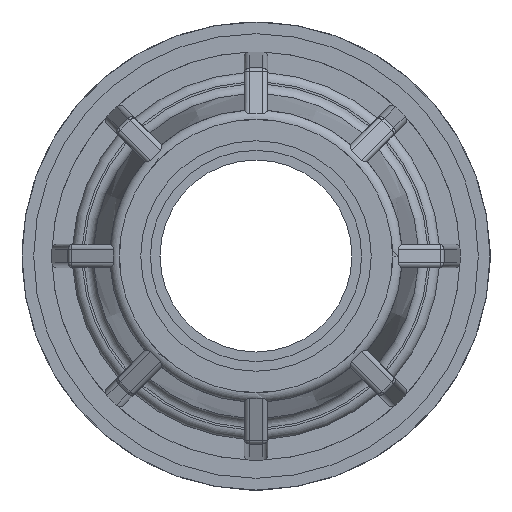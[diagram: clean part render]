
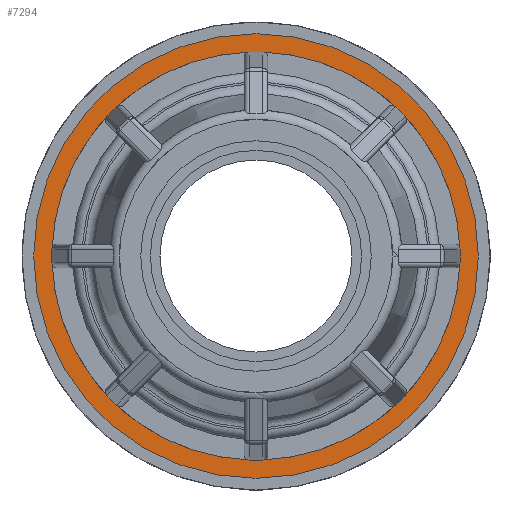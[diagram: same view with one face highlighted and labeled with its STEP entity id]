
A CAD part, left-side view. The second image highlights one B-rep face of the part: STEP entity #7294.
In plain terms, the highlighted planar face has unit normal (-1, 0, 0).
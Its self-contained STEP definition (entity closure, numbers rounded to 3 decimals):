
#1346=PLANE('',#7797);
#1599=FACE_BOUND('',#2123,.T.);
#1623=FACE_OUTER_BOUND('',#2122,.T.);
#2122=EDGE_LOOP('',(#4854));
#2123=EDGE_LOOP('',(#4855));
#2637=CIRCLE('',#7791,16.575);
#2639=CIRCLE('',#7795,18.525);
#3025=VERTEX_POINT('',#10967);
#3027=VERTEX_POINT('',#10973);
#3701=EDGE_CURVE('',#3025,#3025,#2637,.T.);
#3703=EDGE_CURVE('',#3027,#3027,#2639,.T.);
#4854=ORIENTED_EDGE('',*,*,#3703,.F.);
#4855=ORIENTED_EDGE('',*,*,#3701,.T.);
#7294=ADVANCED_FACE('',(#1623,#1599),#1346,.F.);
#7791=AXIS2_PLACEMENT_3D('',#10968,#8695,#8696);
#7795=AXIS2_PLACEMENT_3D('',#10974,#8703,#8704);
#7797=AXIS2_PLACEMENT_3D('',#10977,#8707,#8708);
#8695=DIRECTION('center_axis',(1.,0.,0.));
#8696=DIRECTION('ref_axis',(0.,0.,-1.));
#8703=DIRECTION('center_axis',(1.,0.,0.));
#8704=DIRECTION('ref_axis',(0.,0.,-1.));
#8707=DIRECTION('center_axis',(1.,0.,0.));
#8708=DIRECTION('ref_axis',(0.,0.,-1.));
#10967=CARTESIAN_POINT('',(11.115,0.,16.575));
#10968=CARTESIAN_POINT('Origin',(11.115,0.,0.));
#10973=CARTESIAN_POINT('',(11.115,0.,18.525));
#10974=CARTESIAN_POINT('Origin',(11.115,0.,0.));
#10977=CARTESIAN_POINT('Origin',(11.115,0.,0.));
